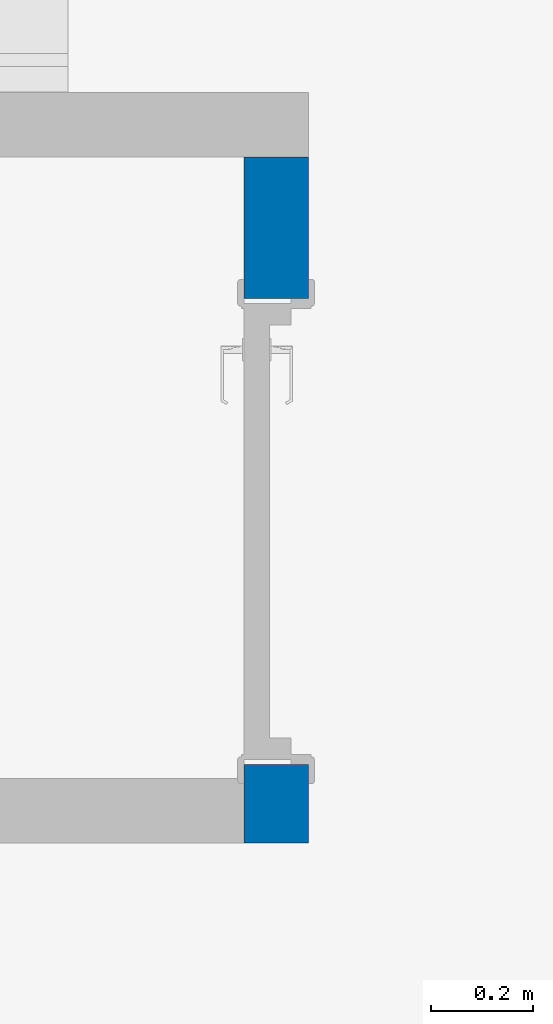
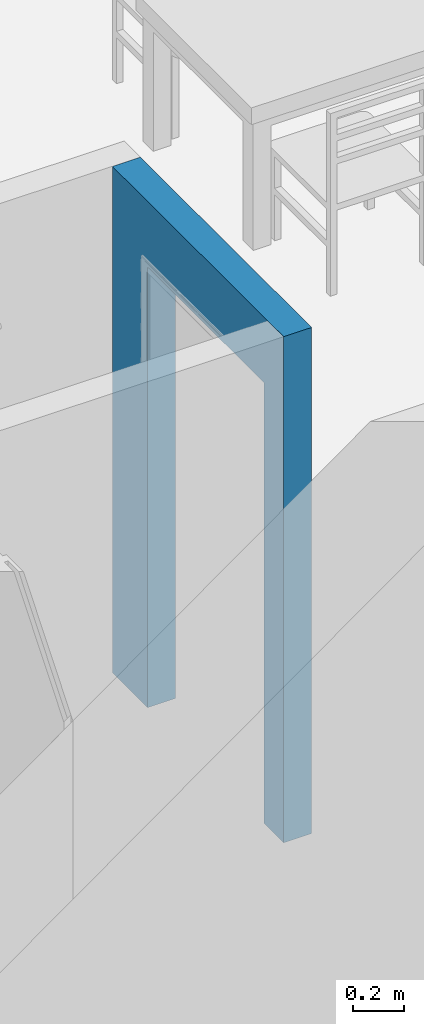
# One storey, part 22 of 65: 1 wall, 1 opening.
"""IFC2X3 building model written with IfcOpenShell, lengths in millimetres."""

from ifc_helpers import new_model, entity, si_unit, converted_unit, direction, frame, frame_2d, origin, place, context, subcontext, project, spatial, rectangle, extrude, material, layer, layer_set, layer_usage, type_object, element, save


model = new_model("IFC2X3")

# Units and contexts
model_context = context("Model", 3, precision=0.01, world=origin(), true_north=direction((0.0, 1.0)))
body_context = subcontext(model_context, "Body", "Model", "MODEL_VIEW")
ifc_project = project(units=[si_unit("LENGTHUNIT", "METRE", prefix="MILLI"), si_unit("AREAUNIT", "SQUARE_METRE"), si_unit("VOLUMEUNIT", "CUBIC_METRE"), converted_unit("PLANEANGLEUNIT", "DEGREE", entity("IfcPlaneAngleMeasure", 0.017453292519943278), si_unit("PLANEANGLEUNIT", "RADIAN"), dimensions=[0, 0, 0, 0, 0, 0, 0])], contexts=[model_context])

# Site, building, storey
site_placement = place(None, origin())
site = spatial("IfcSite", under=ifc_project, at=site_placement, Name="Default", CompositionType="ELEMENT")
building_placement = place(site_placement, origin())
building = spatial("IfcBuilding", under=site, at=building_placement, CompositionType="ELEMENT")
storey_placement = place(building_placement, origin())
storey = spatial("IfcBuildingStorey", under=building, at=storey_placement, Name="Et. 1", CompositionType="ELEMENT", Elevation=0.0)

# Wall, opening
ifc_material_1 = material(Name="Vegg - Gips - Innvendig - Hvit")
ifc_layer_1 = layer(ifc_material_1, 13.000000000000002)
ifc_material_2 = material(Name="Vegg - Stender - Stål - Isolert")
ifc_layer_2 = layer(ifc_material_2, 100.0)
ifc_layer_3 = layer(ifc_material_1, 13.000000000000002)
ifc_layer_set = layer_set([ifc_layer_1, ifc_layer_2, ifc_layer_3], Name="Basic Wall:24-GSIG-13_100_13")
ifc_layer_usage = layer_usage(ifc_layer_set, "AXIS2", "NEGATIVE", 63.00000000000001)
wall_type = type_object("IfcWallType", Name="Basic Wall:24-GSIG-13_100_13", PredefinedType="STANDARD", material=ifc_layer_set)
wall_placement = place(storey_placement, frame((30542.00958675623, 11093.058719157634, 0.0), z_axis=(0.0, 0.0, 1.0), x_axis=(0.0, -1.0, 0.0)))
wall = element("IfcWallStandardCase", 1, at=wall_placement, inside=storey, type_object=wall_type, material=ifc_layer_usage, Name="Basic Wall:24-GSIG-13_100_13", context=body_context, shape_type="SweptSolid", body=[
    extrude(rectangle(XDim=1338.8777614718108, YDim=126.00000000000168, at=frame_2d((669.4388807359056, -2.9842794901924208e-12), x_axis=(1.0, 0.0))), origin(), (0.0, 0.0, 1.0), 2413.0),
])
opening_placement = place(wall_placement, frame((1185.8777614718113, 63.0, 0.0)))
element("IfcOpeningElement", 2, at=opening_placement, cuts=wall, Name="ID Hel:9x21M:1", ObjectType="Opening", context=body_context, shape_type="SweptSolid", body=[
    extrude(rectangle(XDim=910.0000000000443, YDim=2100.0000000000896, at=frame_2d((1050.0000000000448, 455.00000000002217), x_axis=(0.0, -1.0))), frame((0.0, 0.0, 0.0), z_axis=(0.0, -1.0, 0.0), x_axis=(0.0, 0.0, 1.0)), (0.0, 0.0, 1.0), 126.00000000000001),
])

save(model, "model.ifc")
